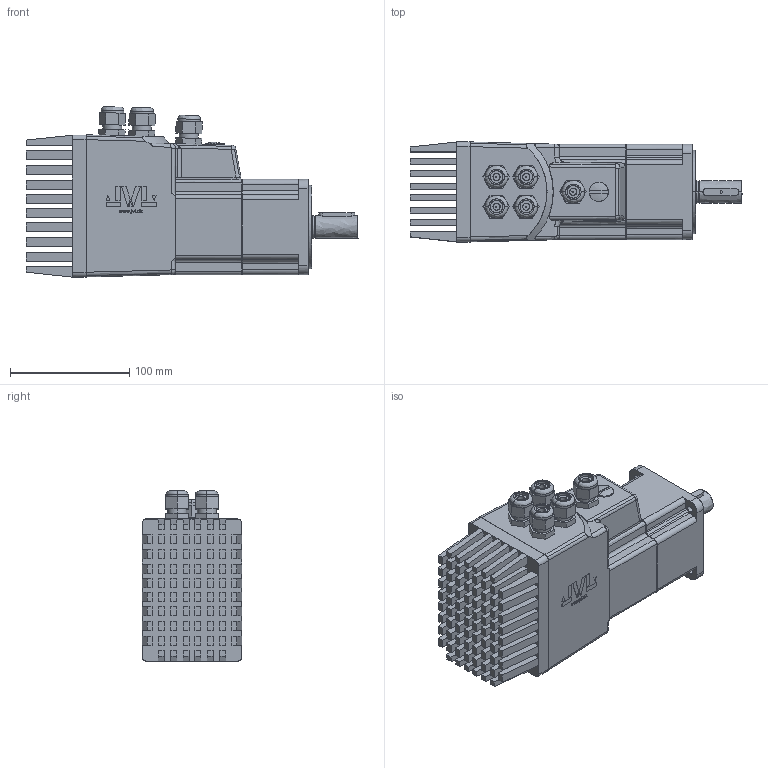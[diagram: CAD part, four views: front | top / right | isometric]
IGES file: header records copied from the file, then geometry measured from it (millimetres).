
Start section: Comment
Global section: file name: MAC800-D6.igs; native system:  By UGS Corp.; preprocessor: XPlus GENERIC/IGES 3.0; author: Author; organization: Title; date: 20120702.150027; units: millimetre
Bounding box: 278.99 x 84 x 143.27 mm (x, y, z)
Surface area: 278191.5 mm2 (no closed solid volume)
Topology: 0 solids, 0 shells, 1352 faces, 7039 edges, 7025 vertices
Faces by surface type: bspline 1352
